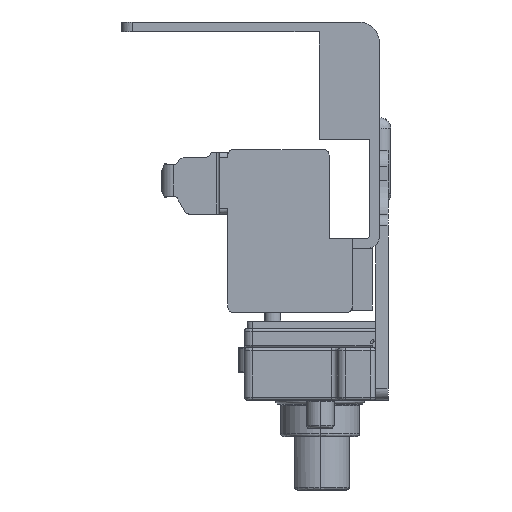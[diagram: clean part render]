
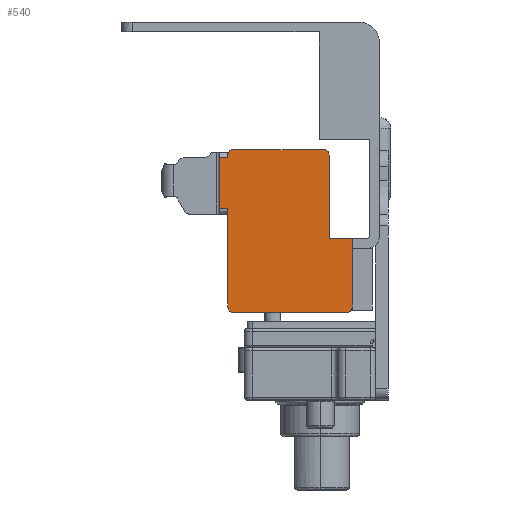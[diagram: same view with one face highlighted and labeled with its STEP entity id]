
A CAD part, left-side view. The second image highlights one B-rep face of the part: STEP entity #540.
In plain terms, the highlighted planar face has unit normal (-1, 0, 0).
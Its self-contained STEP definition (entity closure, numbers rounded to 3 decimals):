
#540 = ADVANCED_FACE ( 'NONE', ( #14397 ), #1733, .F. ) ;
#949 = DIRECTION ( 'NONE',  ( 0., 1., 0. ) ) ;
#1052 = ORIENTED_EDGE ( 'NONE', *, *, #13501, .F. ) ;
#1288 = CARTESIAN_POINT ( 'NONE',  ( -302.27, -5.833, -3.651 ) ) ;
#1669 = CARTESIAN_POINT ( 'NONE',  ( -302.27, -4.363, -3.651 ) ) ;
#1733 = PLANE ( 'NONE',  #3322 ) ;
#1761 = VERTEX_POINT ( 'NONE', #18428 ) ;
#1776 = CARTESIAN_POINT ( 'NONE',  ( -302.27, -6.546, -32.172 ) ) ;
#1913 = CARTESIAN_POINT ( 'NONE',  ( -302.27, -26.933, -32.181 ) ) ;
#1970 = CARTESIAN_POINT ( 'NONE',  ( -302.27, -22.833, -3.151 ) ) ;
#2180 = LINE ( 'NONE', #5668, #5621 ) ;
#2729 = VECTOR ( 'NONE', #14269, 1000. ) ;
#2989 = CARTESIAN_POINT ( 'NONE',  ( -302.27, -4.363, -13.651 ) ) ;
#3112 = CARTESIAN_POINT ( 'NONE',  ( -302.27, -5.833, -31.181 ) ) ;
#3158 = LINE ( 'NONE', #17150, #13876 ) ;
#3298 = EDGE_CURVE ( 'NONE', #12283, #11048, #10929, .T. ) ;
#3306 = EDGE_CURVE ( 'NONE', #11042, #4437, #3158, .T. ) ;
#3322 = AXIS2_PLACEMENT_3D ( 'NONE', #1669, #7381, #7446 ) ;
#3679 = EDGE_CURVE ( 'NONE', #18096, #13741, #17090, .T. ) ;
#4011 = VECTOR ( 'NONE', #15918, 1000. ) ;
#4058 = CARTESIAN_POINT ( 'NONE',  ( -302.27, -27.933, -3.651 ) ) ;
#4199 = DIRECTION ( 'NONE',  ( 0., 0., 1. ) ) ;
#4218 = AXIS2_PLACEMENT_3D ( 'NONE', #16256, #7540, #17726 ) ;
#4435 = DIRECTION ( 'NONE',  ( 0., 1., 0. ) ) ;
#4437 = VERTEX_POINT ( 'NONE', #5768 ) ;
#4450 = LINE ( 'NONE', #1288, #4011 ) ;
#4495 = VERTEX_POINT ( 'NONE', #11945 ) ;
#4516 = EDGE_CURVE ( 'NONE', #1761, #11042, #13341, .T. ) ;
#4639 = EDGE_CURVE ( 'NONE', #6176, #1761, #6289, .T. ) ;
#4883 = CARTESIAN_POINT ( 'NONE',  ( -302.27, -23.833, -18.981 ) ) ;
#4976 = LINE ( 'NONE', #5853, #8445 ) ;
#5504 = EDGE_CURVE ( 'NONE', #6322, #18096, #11762, .T. ) ;
#5528 = ORIENTED_EDGE ( 'NONE', *, *, #3306, .F. ) ;
#5621 = VECTOR ( 'NONE', #4199, 1000. ) ;
#5668 = CARTESIAN_POINT ( 'NONE',  ( -302.27, -4.363, -3.651 ) ) ;
#5768 = CARTESIAN_POINT ( 'NONE',  ( -302.27, -5.833, -13.651 ) ) ;
#5853 = CARTESIAN_POINT ( 'NONE',  ( -302.27, -23.833, -3.651 ) ) ;
#6099 = CARTESIAN_POINT ( 'NONE',  ( -302.27, -27.825, -31.702 ) ) ;
#6176 = VERTEX_POINT ( 'NONE', #1913 ) ;
#6187 = CARTESIAN_POINT ( 'NONE',  ( -302.27, -6.294, -32.061 ) ) ;
#6289 = LINE ( 'NONE', #15507, #9262 ) ;
#6322 = VERTEX_POINT ( 'NONE', #14126 ) ;
#6381 = CARTESIAN_POINT ( 'NONE',  ( -302.27, -23.095, -3.151 ) ) ;
#6591 = ORIENTED_EDGE ( 'NONE', *, *, #3679, .F. ) ;
#6988 = B_SPLINE_CURVE_WITH_KNOTS ( 'NONE', 3,
 ( #1970, #6381, #16588, #7861, #18053, #9320 ),
 .UNSPECIFIED., .F., .F.,
 ( 4, 2, 4 ),
 ( 0., 0.5, 1. ),
 .UNSPECIFIED. ) ;
#7047 = CARTESIAN_POINT ( 'NONE',  ( -302.27, -4.363, -18.981 ) ) ;
#7334 = DIRECTION ( 'NONE',  ( 0., 0., -1. ) ) ;
#7340 = VERTEX_POINT ( 'NONE', #18997 ) ;
#7381 = DIRECTION ( 'NONE',  ( 1., 0., 0. ) ) ;
#7446 = DIRECTION ( 'NONE',  ( 0., 0., -1. ) ) ;
#7540 = DIRECTION ( 'NONE',  ( 1., 0., 0. ) ) ;
#7570 = DIRECTION ( 'NONE',  ( 0., -1., 0. ) ) ;
#7588 = CARTESIAN_POINT ( 'NONE',  ( -302.27, -27.195, -32.181 ) ) ;
#7647 = ORIENTED_EDGE ( 'NONE', *, *, #11427, .F. ) ;
#7681 = CARTESIAN_POINT ( 'NONE',  ( -302.27, -5.833, -31.437 ) ) ;
#7843 = EDGE_CURVE ( 'NONE', #11048, #6176, #7989, .T. ) ;
#7861 = CARTESIAN_POINT ( 'NONE',  ( -302.27, -23.725, -3.629 ) ) ;
#7989 = B_SPLINE_CURVE_WITH_KNOTS ( 'NONE', 3,
 ( #13376, #14840, #6099, #16320, #7588, #17773 ),
 .UNSPECIFIED., .F., .F.,
 ( 4, 2, 4 ),
 ( 0., 0.5, 1. ),
 .UNSPECIFIED. ) ;
#8185 = VERTEX_POINT ( 'NONE', #11593 ) ;
#8324 = ORIENTED_EDGE ( 'NONE', *, *, #3298, .F. ) ;
#8445 = VECTOR ( 'NONE', #7334, 1000. ) ;
#9262 = VECTOR ( 'NONE', #949, 1000. ) ;
#9320 = CARTESIAN_POINT ( 'NONE',  ( -302.27, -23.833, -4.151 ) ) ;
#9657 = VERTEX_POINT ( 'NONE', #4883 ) ;
#9834 = VECTOR ( 'NONE', #17224, 1000. ) ;
#9874 = EDGE_LOOP ( 'NONE', ( #17402, #18622, #6591, #14753, #7647, #1052, #15424, #16470, #5528, #12128, #13202, #15361, #8324, #12115 ) ) ;
#10660 = VECTOR ( 'NONE', #11352, 1000. ) ;
#10929 = LINE ( 'NONE', #4058, #2729 ) ;
#10973 = EDGE_CURVE ( 'NONE', #14504, #8185, #2180, .T. ) ;
#11042 = VERTEX_POINT ( 'NONE', #3112 ) ;
#11048 = VERTEX_POINT ( 'NONE', #17707 ) ;
#11352 = DIRECTION ( 'NONE',  ( 0., -1., 0. ) ) ;
#11427 = EDGE_CURVE ( 'NONE', #7340, #6322, #4450, .T. ) ;
#11593 = CARTESIAN_POINT ( 'NONE',  ( -302.27, -4.363, -4.651 ) ) ;
#11669 = EDGE_CURVE ( 'NONE', #13741, #4495, #6988, .T. ) ;
#11762 = CIRCLE ( 'NONE', #4218, 1. ) ;
#11842 = LINE ( 'NONE', #2989, #16179 ) ;
#11945 = CARTESIAN_POINT ( 'NONE',  ( -302.27, -23.833, -4.151 ) ) ;
#12019 = CARTESIAN_POINT ( 'NONE',  ( -302.27, -27.933, -18.981 ) ) ;
#12115 = ORIENTED_EDGE ( 'NONE', *, *, #17965, .F. ) ;
#12128 = ORIENTED_EDGE ( 'NONE', *, *, #4516, .F. ) ;
#12132 = CARTESIAN_POINT ( 'NONE',  ( -302.27, -4.363, -13.651 ) ) ;
#12283 = VERTEX_POINT ( 'NONE', #12019 ) ;
#13202 = ORIENTED_EDGE ( 'NONE', *, *, #4639, .F. ) ;
#13341 = B_SPLINE_CURVE_WITH_KNOTS ( 'NONE', 3,
 ( #17799, #1776, #6187, #16397, #7681, #17867 ),
 .UNSPECIFIED., .F., .F.,
 ( 4, 2, 4 ),
 ( 0., 0.5, 1. ),
 .UNSPECIFIED. ) ;
#13376 = CARTESIAN_POINT ( 'NONE',  ( -302.27, -27.933, -31.181 ) ) ;
#13501 = EDGE_CURVE ( 'NONE', #8185, #7340, #18422, .T. ) ;
#13741 = VERTEX_POINT ( 'NONE', #16351 ) ;
#13876 = VECTOR ( 'NONE', #14206, 1000. ) ;
#14126 = CARTESIAN_POINT ( 'NONE',  ( -302.27, -5.833, -4.151 ) ) ;
#14206 = DIRECTION ( 'NONE',  ( 0., 0., 1. ) ) ;
#14269 = DIRECTION ( 'NONE',  ( 0., 0., -1. ) ) ;
#14397 = FACE_OUTER_BOUND ( 'NONE', #9874, .T. ) ;
#14504 = VERTEX_POINT ( 'NONE', #12132 ) ;
#14753 = ORIENTED_EDGE ( 'NONE', *, *, #5504, .F. ) ;
#14840 = CARTESIAN_POINT ( 'NONE',  ( -302.27, -27.933, -31.442 ) ) ;
#15361 = ORIENTED_EDGE ( 'NONE', *, *, #7843, .F. ) ;
#15424 = ORIENTED_EDGE ( 'NONE', *, *, #10973, .F. ) ;
#15507 = CARTESIAN_POINT ( 'NONE',  ( -302.27, -4.363, -32.181 ) ) ;
#15683 = CARTESIAN_POINT ( 'NONE',  ( -302.27, -4.363, -4.651 ) ) ;
#15918 = DIRECTION ( 'NONE',  ( 0., 0., 1. ) ) ;
#16179 = VECTOR ( 'NONE', #4435, 1000. ) ;
#16256 = CARTESIAN_POINT ( 'NONE',  ( -302.27, -6.833, -4.151 ) ) ;
#16320 = CARTESIAN_POINT ( 'NONE',  ( -302.27, -27.455, -32.073 ) ) ;
#16351 = CARTESIAN_POINT ( 'NONE',  ( -302.27, -22.833, -3.151 ) ) ;
#16397 = CARTESIAN_POINT ( 'NONE',  ( -302.27, -5.937, -31.693 ) ) ;
#16470 = ORIENTED_EDGE ( 'NONE', *, *, #18142, .F. ) ;
#16588 = CARTESIAN_POINT ( 'NONE',  ( -302.27, -23.355, -3.258 ) ) ;
#16608 = VECTOR ( 'NONE', #7570, 1000. ) ;
#17090 = LINE ( 'NONE', #17760, #16608 ) ;
#17150 = CARTESIAN_POINT ( 'NONE',  ( -302.27, -5.833, -10.181 ) ) ;
#17224 = DIRECTION ( 'NONE',  ( 0., -1., 0. ) ) ;
#17402 = ORIENTED_EDGE ( 'NONE', *, *, #18111, .F. ) ;
#17481 = CARTESIAN_POINT ( 'NONE',  ( -302.27, -6.833, -3.151 ) ) ;
#17570 = LINE ( 'NONE', #7047, #9834 ) ;
#17707 = CARTESIAN_POINT ( 'NONE',  ( -302.27, -27.933, -31.181 ) ) ;
#17726 = DIRECTION ( 'NONE',  ( 0., 0., 1. ) ) ;
#17760 = CARTESIAN_POINT ( 'NONE',  ( -302.27, -4.363, -3.151 ) ) ;
#17773 = CARTESIAN_POINT ( 'NONE',  ( -302.27, -26.933, -32.181 ) ) ;
#17799 = CARTESIAN_POINT ( 'NONE',  ( -302.27, -6.803, -32.18 ) ) ;
#17867 = CARTESIAN_POINT ( 'NONE',  ( -302.27, -5.833, -31.181 ) ) ;
#17965 = EDGE_CURVE ( 'NONE', #9657, #12283, #17570, .T. ) ;
#18053 = CARTESIAN_POINT ( 'NONE',  ( -302.27, -23.833, -3.889 ) ) ;
#18096 = VERTEX_POINT ( 'NONE', #17481 ) ;
#18111 = EDGE_CURVE ( 'NONE', #4495, #9657, #4976, .T. ) ;
#18142 = EDGE_CURVE ( 'NONE', #4437, #14504, #11842, .T. ) ;
#18422 = LINE ( 'NONE', #15683, #10660 ) ;
#18428 = CARTESIAN_POINT ( 'NONE',  ( -302.27, -6.803, -32.18 ) ) ;
#18622 = ORIENTED_EDGE ( 'NONE', *, *, #11669, .F. ) ;
#18997 = CARTESIAN_POINT ( 'NONE',  ( -302.27, -5.833, -4.651 ) ) ;
